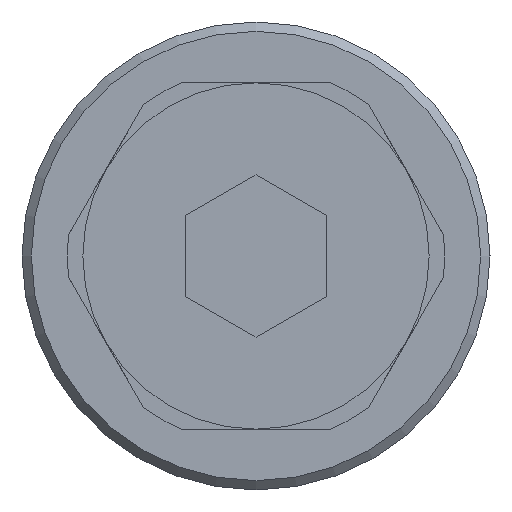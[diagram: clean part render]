
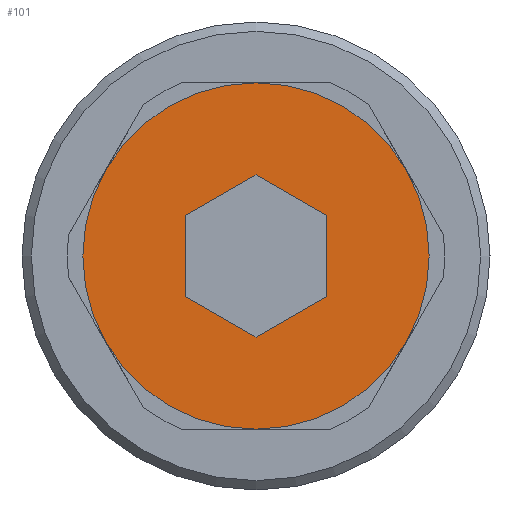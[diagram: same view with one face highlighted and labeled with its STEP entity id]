
A CAD part, left-side view. The second image highlights one B-rep face of the part: STEP entity #101.
In plain terms, the highlighted planar face has unit normal (-1, 0, 0).
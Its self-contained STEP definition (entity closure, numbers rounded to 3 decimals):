
#101 = ADVANCED_FACE( '', ( #224, #225 ), #226, .F. );
#224 = FACE_OUTER_BOUND( '', #371, .T. );
#225 = FACE_BOUND( '', #372, .T. );
#226 = PLANE( '', #373 );
#371 = EDGE_LOOP( '', ( #600 ) );
#372 = EDGE_LOOP( '', ( #601, #602, #603, #604, #605, #606 ) );
#373 = AXIS2_PLACEMENT_3D( '', #607, #608, #609 );
#600 = ORIENTED_EDGE( '', *, *, #853, .F. );
#601 = ORIENTED_EDGE( '', *, *, #854, .F. );
#602 = ORIENTED_EDGE( '', *, *, #844, .F. );
#603 = ORIENTED_EDGE( '', *, *, #809, .F. );
#604 = ORIENTED_EDGE( '', *, *, #827, .F. );
#605 = ORIENTED_EDGE( '', *, *, #855, .F. );
#606 = ORIENTED_EDGE( '', *, *, #856, .F. );
#607 = CARTESIAN_POINT( '', ( 5., 0., 0. ) );
#608 = DIRECTION( '', ( 1., 0., 0. ) );
#609 = DIRECTION( '', ( 0., 0., -1. ) );
#809 = EDGE_CURVE( '', #956, #957, #958, .T. );
#827 = EDGE_CURVE( '', #986, #956, #987, .T. );
#844 = EDGE_CURVE( '', #957, #1010, #1011, .T. );
#853 = EDGE_CURVE( '', #1022, #1022, #1023, .T. );
#854 = EDGE_CURVE( '', #1010, #1024, #1025, .T. );
#855 = EDGE_CURVE( '', #1026, #986, #1027, .T. );
#856 = EDGE_CURVE( '', #1024, #1026, #1028, .T. );
#956 = VERTEX_POINT( '', #1152 );
#957 = VERTEX_POINT( '', #1153 );
#958 = LINE( '', #1154, #1155 );
#986 = VERTEX_POINT( '', #1189 );
#987 = LINE( '', #1190, #1191 );
#1010 = VERTEX_POINT( '', #1221 );
#1011 = LINE( '', #1222, #1223 );
#1022 = VERTEX_POINT( '', #1235 );
#1023 = CIRCLE( '', #1236, 3.7 );
#1024 = VERTEX_POINT( '', #1237 );
#1025 = LINE( '', #1238, #1239 );
#1026 = VERTEX_POINT( '', #1240 );
#1027 = LINE( '', #1241, #1242 );
#1028 = LINE( '', #1243, #1244 );
#1152 = CARTESIAN_POINT( '', ( 5., -1.5, -0.866 ) );
#1153 = CARTESIAN_POINT( '', ( 5., -1.5, 0.866 ) );
#1154 = CARTESIAN_POINT( '', ( 5., -1.5, 0. ) );
#1155 = VECTOR( '', #1339, 1000. );
#1189 = CARTESIAN_POINT( '', ( 5., 0., -1.732 ) );
#1190 = CARTESIAN_POINT( '', ( 5., -0.75, -1.299 ) );
#1191 = VECTOR( '', #1370, 1000. );
#1221 = CARTESIAN_POINT( '', ( 5., 0., 1.732 ) );
#1222 = CARTESIAN_POINT( '', ( 5., -0.75, 1.299 ) );
#1223 = VECTOR( '', #1390, 1000. );
#1235 = CARTESIAN_POINT( '', ( 5., 0., -3.7 ) );
#1236 = AXIS2_PLACEMENT_3D( '', #1401, #1402, #1403 );
#1237 = CARTESIAN_POINT( '', ( 5., 1.5, 0.866 ) );
#1238 = CARTESIAN_POINT( '', ( 5., 0.75, 1.299 ) );
#1239 = VECTOR( '', #1404, 1000. );
#1240 = CARTESIAN_POINT( '', ( 5., 1.5, -0.866 ) );
#1241 = CARTESIAN_POINT( '', ( 5., 0.75, -1.299 ) );
#1242 = VECTOR( '', #1405, 1000. );
#1243 = CARTESIAN_POINT( '', ( 5., 1.5, 0. ) );
#1244 = VECTOR( '', #1406, 1000. );
#1339 = DIRECTION( '', ( 0., 0., 1. ) );
#1370 = DIRECTION( '', ( 0., -0.866, 0.5 ) );
#1390 = DIRECTION( '', ( 0., 0.866, 0.5 ) );
#1401 = CARTESIAN_POINT( '', ( 5., 0., 0. ) );
#1402 = DIRECTION( '', ( 1., 0., 0. ) );
#1403 = DIRECTION( '', ( 0., 0., -1. ) );
#1404 = DIRECTION( '', ( 0., 0.866, -0.5 ) );
#1405 = DIRECTION( '', ( 0., -0.866, -0.5 ) );
#1406 = DIRECTION( '', ( 0., 0., -1. ) );
